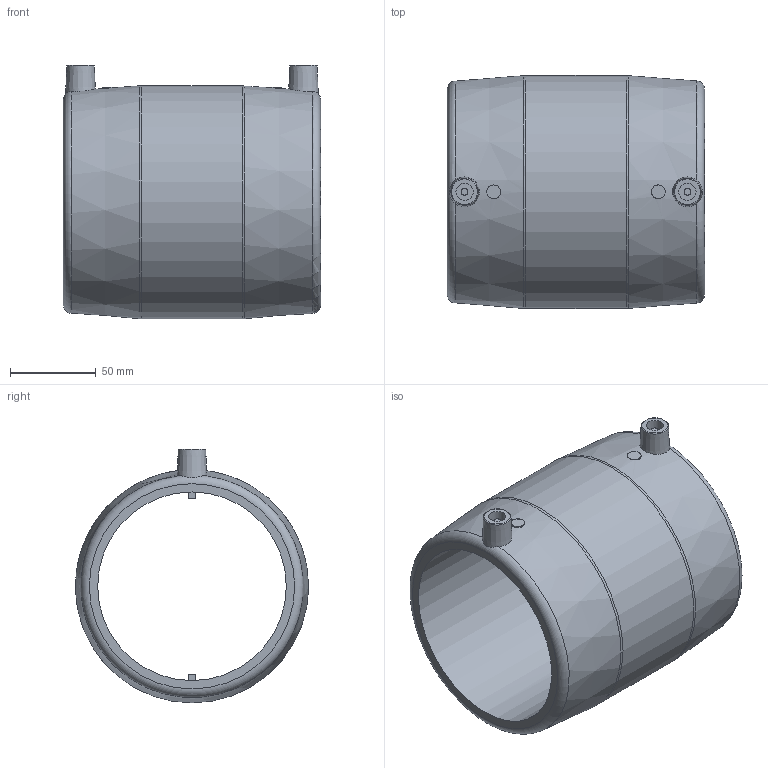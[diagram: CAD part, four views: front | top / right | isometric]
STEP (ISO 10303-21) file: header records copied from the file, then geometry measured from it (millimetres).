
FILE_DESCRIPTION(/* description */ ('Unknown'),/* implementation_level */ '2;1');
FILE_NAME(/* name */ 'MP110C',/* time_stamp */ '2021-02-10T15:48:47+01:00',/* author */ ('Unknown'),/* organization */ ('Unknown'),/* preprocessor_version */ 'ST-DEVELOPER v16.7',/* originating_system */ 'Solid Edge',/* authorisation */ 'Unknown');
FILE_SCHEMA (('AUTOMOTIVE_DESIGN {1 0 10303 214 3 1 1}'));
Length unit declared in the file: millimetre
Products named in the file (1): MP110C
Bounding box: 150 x 136 x 148 mm (x, y, z)
Volume: 688466.1 mm3; surface area: 123469.8 mm2
Topology: 1 solids, 1 shells, 42 faces, 99 edges, 66 vertices
Faces by surface type: plane 20, cylinder 12, torus 6, cone 4
Full cylindrical faces by diameter (mm): 4 x2, 8 x2, 10 x2, 110 x1, 136 x1
Entity records: 1076 total; most frequent: CARTESIAN_POINT 217, DIRECTION 182, ORIENTED_EDGE 132, AXIS2_PLACEMENT_3D 79, EDGE_LOOP 70, FACE_BOUND 70, EDGE_CURVE 66, VERTEX_POINT 52
